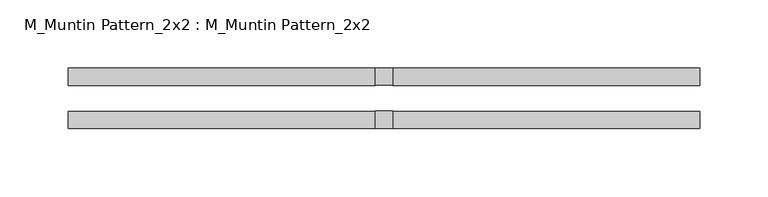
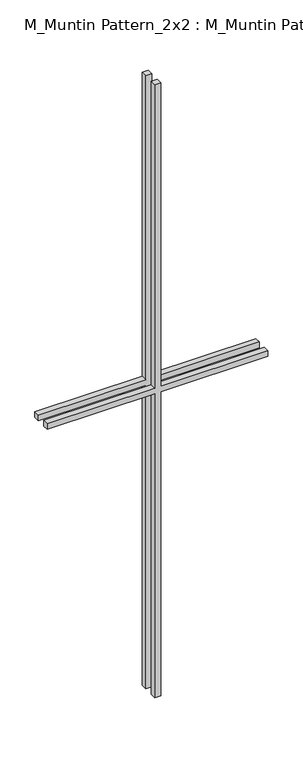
"""IFC4 building model written with IfcOpenShell, lengths in millimetres: proxy geometry, M_Muntin Pattern_2x2 : M_Muntin Pattern_2x2."""

from ifc_helpers import new_model, si_unit, frame, origin, place, context, project, spatial, polyline, outline, extrude, source, transform, mapped, element, save


def m_muntin_pattern_2x2_m_muntin_pattern_2x2_d4676b39(model_context):
    return source(origin(), model_context, "Body", "SweptSolid", [
        extrude(outline(polyline([(686.5, -6.35), (686.5, -231.7375), (673.8, -231.7375), (673.8, -6.35), (0.0, -6.35), (0.0, 6.35), (673.8, 6.35), (673.8, 231.7375), (686.5, 231.7375), (686.5, 6.35), (1360.3, 6.35), (1360.3, -6.35), (686.5, -6.35)])), frame((0.0, 9.525, 0.0), z_axis=(0.0, 1.0, 0.0), x_axis=(0.0, 0.0, 1.0)), (0.0, 0.0, 1.0), 12.7),
        extrude(outline(polyline([(686.5, -6.35), (686.5, -231.7375), (673.8, -231.7375), (673.8, -6.35), (0.0, -6.35), (0.0, 6.35), (673.8, 6.35), (673.8, 231.7375), (686.5, 231.7375), (686.5, 6.35), (1360.3, 6.35), (1360.3, -6.35), (686.5, -6.35)])), frame((0.0, -22.225, 0.0), z_axis=(0.0, 1.0, 0.0), x_axis=(0.0, 0.0, 1.0)), (0.0, 0.0, 1.0), 12.7),
    ])


if __name__ == "__main__":
    model = new_model("IFC4")
    model_context = context("Model", 3, world=origin())
    ifc_project = project(units=[si_unit("LENGTHUNIT", "METRE", prefix="MILLI")], contexts=[model_context])
    site = spatial("IfcSite", under=ifc_project)
    building = spatial("IfcBuilding", under=site)
    placement = place(None, origin())
    m_muntin_pattern_2x2_m_muntin_pattern_2x2_shape = m_muntin_pattern_2x2_m_muntin_pattern_2x2_d4676b39(model_context)
    element("IfcBuildingElementProxy", 1, Name="M_Muntin Pattern_2x2 : M_Muntin Pattern_2x2", ObjectType="M_Muntin Pattern_2x2 : M_Muntin Pattern_2x2", at=placement, inside=building, context=model_context, shape_type="MappedRepresentation", body=[
        mapped(m_muntin_pattern_2x2_m_muntin_pattern_2x2_shape, transform((0.0, 0.0, 0.0), x_axis=(1.0, 0.0, 0.0), y_axis=(0.0, 1.0, 0.0), z_axis=(0.0, 0.0, 1.0))),
    ])
    save(model, "model.ifc")
